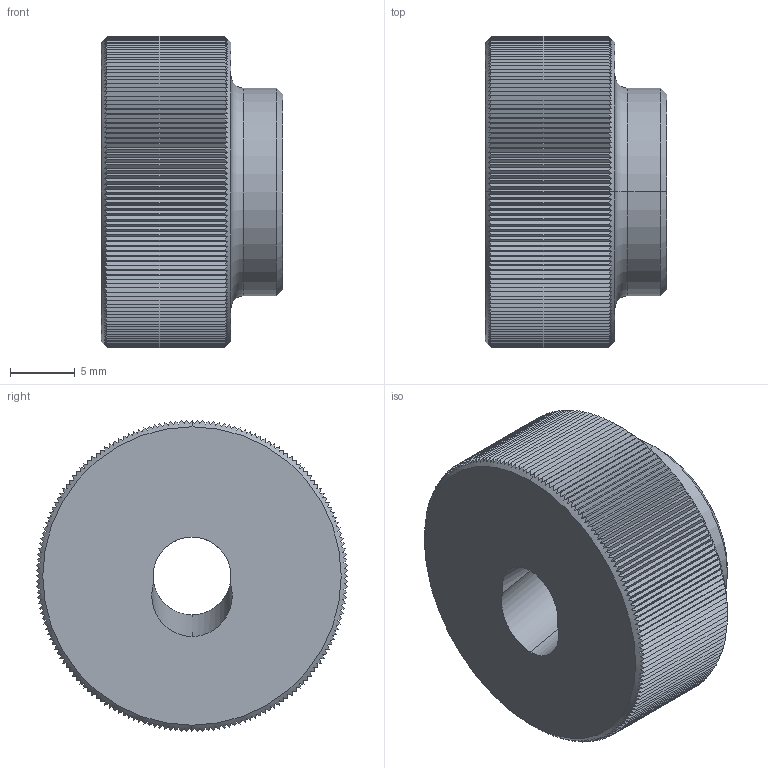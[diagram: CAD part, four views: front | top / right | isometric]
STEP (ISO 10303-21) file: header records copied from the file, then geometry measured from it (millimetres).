
FILE_DESCRIPTION (( 'STEP AP203' ), '1' );
FILE_NAME ('Default.step', '2009-12-09T21:49:17', ( 'Wixroyd' ), ( 'Wixroyd' ), 'SwSTEP 2.0', 'SolidWorks 2009', '' );
FILE_SCHEMA (( 'CONFIG_CONTROL_DESIGN' ));
Length unit declared in the file: millimetre
Products named in the file (1): Default
Bounding box: 14 x 24 x 24 mm (x, y, z)
Volume: 4749.4 mm3; surface area: 2366.3 mm2
Topology: 1 solids, 1 shells, 378 faces, 1116 edges, 741 vertices
Faces by surface type: plane 363, cylinder 7, cone 6, torus 2
Entity records: 13242 total; most frequent: CARTESIAN_POINT 4512, ORIENTED_EDGE 2232, DIRECTION 1163, EDGE_CURVE 1116, VERTEX_POINT 741, B_SPLINE_CURVE_WITH_KNOTS 724, AXIS2_PLACEMENT_3D 396, EDGE_LOOP 381
